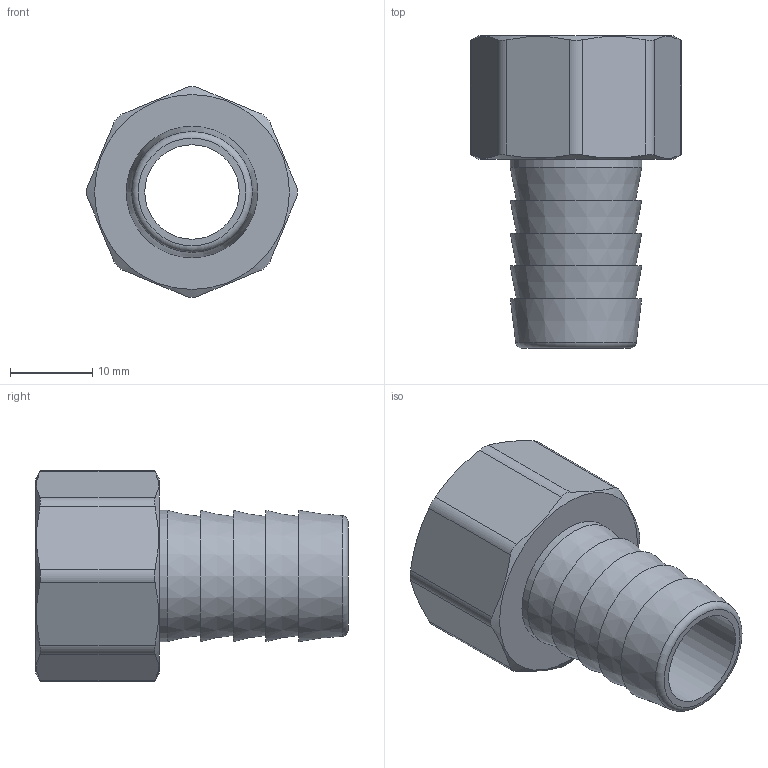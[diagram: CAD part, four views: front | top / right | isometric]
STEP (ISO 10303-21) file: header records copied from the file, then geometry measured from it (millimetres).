
FILE_DESCRIPTION(('STEP AP203'), '1');
FILE_NAME('覆.753154.014 - VTr.654.N.0416 幄鼭歑', '2024-08-02T07:35:54', ('Boss'), (''), 'C3D Converter', 'C3D Toolkit', '');
FILE_SCHEMA(('CONFIG_CONTROL_DESIGN'));
Length unit declared in the file: millimetre
Products named in the file (1): ВР.753154.014
Bounding box: 25.65 x 38 x 25.65 mm (x, y, z)
Volume: 5284.6 mm3; surface area: 4682.7 mm2
Topology: 1 solids, 1 shells, 37 faces, 84 edges, 55 vertices
Faces by surface type: plane 16, cylinder 11, cone 9, torus 1
Full cylindrical faces by diameter (mm): 11.5 x1, 16 x1, 18.632 x1
Entity records: 1995 total; most frequent: CARTESIAN_POINT 1222, ORIENTED_EDGE 142, DIRECTION 134, EDGE_CURVE 71, AXIS2_PLACEMENT_3D 59, EDGE_LOOP 58, VERTEX_POINT 55, ADVANCED_FACE 37
